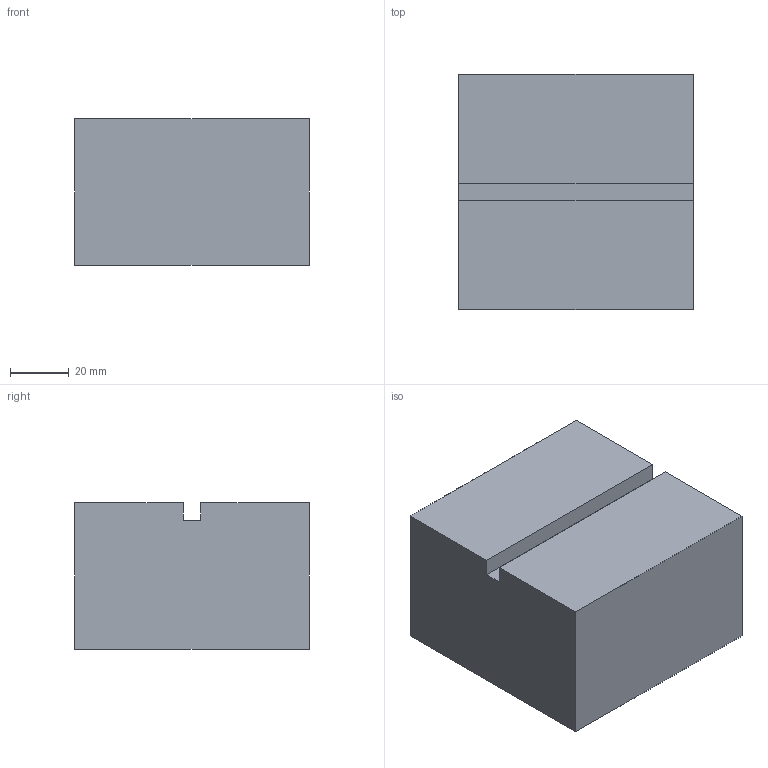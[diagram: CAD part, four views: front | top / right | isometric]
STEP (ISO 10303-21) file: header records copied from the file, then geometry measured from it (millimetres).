
FILE_DESCRIPTION(/* description */ (''),/* implementation_level */ '2;1');
FILE_NAME(/* name */ '1.step',/* time_stamp */ '2025-09-02T11:20:23+02:00',/* author */ (''),/* organization */ (''),/* preprocessor_version */ 'ST-DEVELOPER v20.1',/* originating_system */ 'Autodesk Translation Framework v14.10.0.0',/* authorisation */ '');
FILE_SCHEMA (('AUTOMOTIVE_DESIGN { 1 0 10303 214 3 1 1 }'));
Length unit declared in the file: millimetre
Products named in the file (1): Stufe 0
Bounding box: 80 x 80 x 50 mm (x, y, z)
Volume: 317120 mm3; surface area: 29688 mm2
Topology: 1 solids, 1 shells, 10 faces, 24 edges, 16 vertices
Faces by surface type: plane 10
Entity records: 321 total; most frequent: CARTESIAN_POINT 51, ORIENTED_EDGE 48, DIRECTION 46, LINE 24, VECTOR 24, EDGE_CURVE 24, VERTEX_POINT 16, AXIS2_PLACEMENT_3D 11
